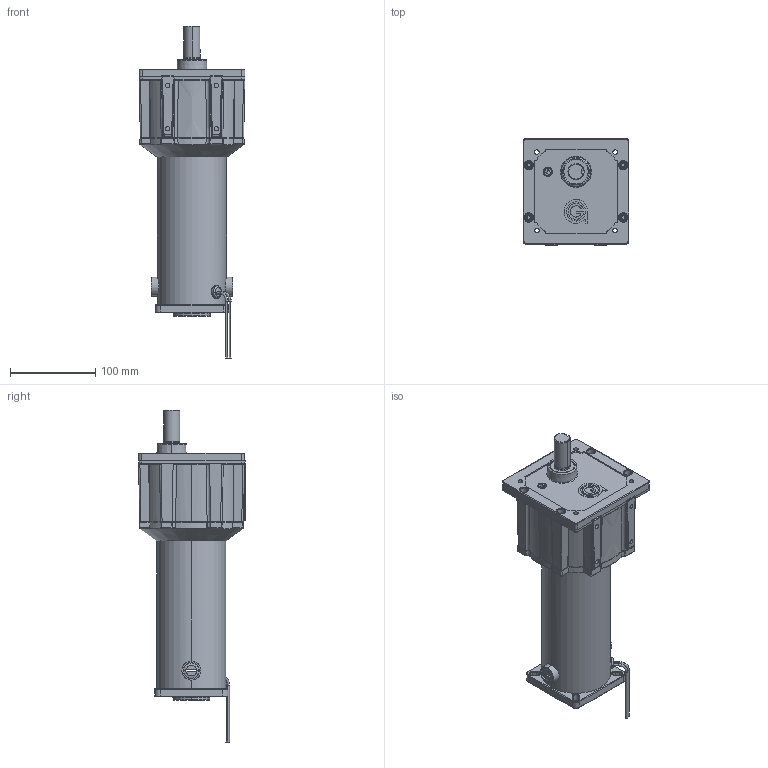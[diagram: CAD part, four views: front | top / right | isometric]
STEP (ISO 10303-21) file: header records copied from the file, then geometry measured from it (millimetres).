
FILE_DESCRIPTION (( 'STEP AP203' ), '1' );
FILE_NAME ('OUTLINE PM8018LV-PS2300.STEP', '2006-11-15T21:29:57', ( 'Groschopp' ), ( 'Groschopp' ), 'SwSTEP 2.0', 'SolidWorks 2007', '' );
FILE_SCHEMA (( 'CONFIG_CONTROL_DESIGN' ));
Length unit declared in the file: inch
Products named in the file (1): OUTLINE PM8018LV-PS2300
Bounding box: 124.01 x 125.51 x 389.8 mm (x, y, z)
Surface area: 154308.5 mm2 (no closed solid volume)
Topology: 0 solids, 28 shells, 760 faces, 2062 edges, 1280 vertices
Faces by surface type: cylinder 257, plane 169, bspline 120, torus 118, cone 81, sphere 15
Entity records: 28256 total; most frequent: CARTESIAN_POINT 9964, DIRECTION 3868, ORIENTED_EDGE 3732, EDGE_CURVE 2046, AXIS2_PLACEMENT_3D 1596, VERTEX_POINT 1272, CIRCLE 955, EDGE_LOOP 826
